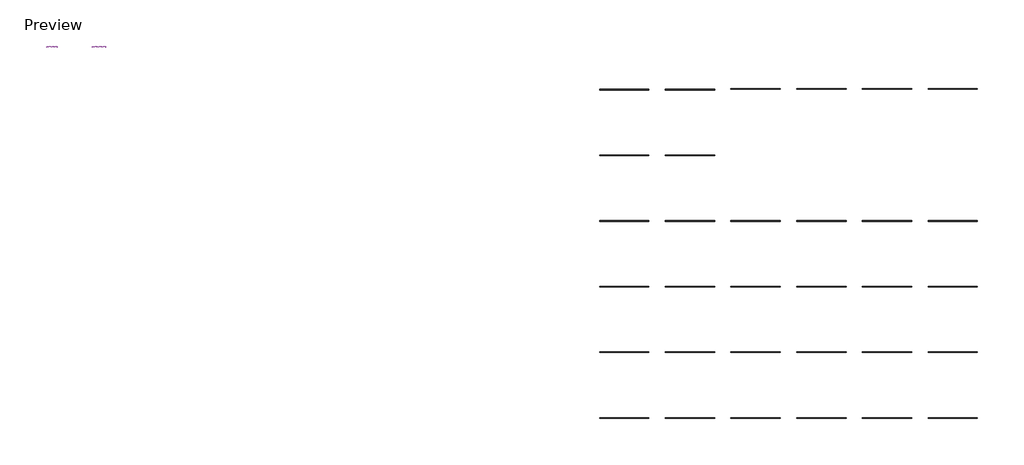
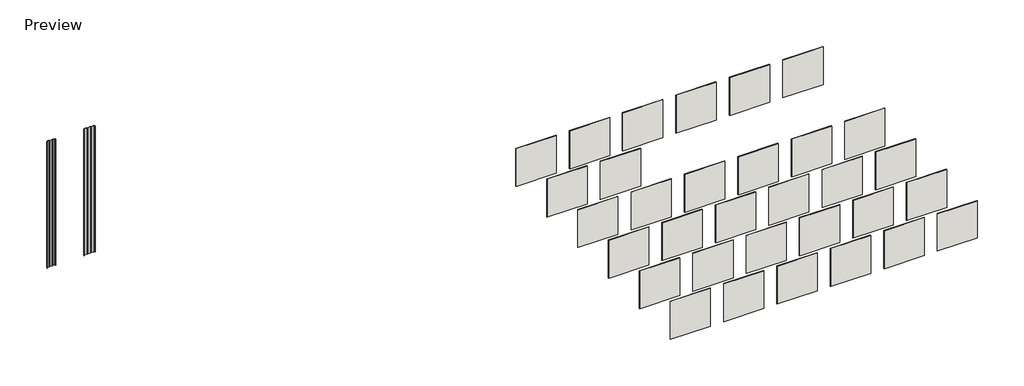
# One storey: 32 walls, 2 proxies.
"""IFC4 building model written with IfcOpenShell, lengths in millimetres."""

from ifc_helpers import new_model, si_unit, frame, origin, origin_with_axes, place, context, project, spatial, polyline, outline, extrude, transform, mapped, element, save
from components import field_lok_flr154_flr154_6b782a5d, field_lok_flr195_flr195_33861746

model = new_model("IFC4")

# Units and contexts
model_context = context("Model", 3, world=origin())
ifc_project = project(units=[si_unit("LENGTHUNIT", "METRE", prefix="MILLI")], contexts=[model_context])

# Site, building, storey
site = spatial("IfcSite", under=ifc_project)
building = spatial("IfcBuilding", under=site)
storey = spatial("IfcBuildingStorey", under=building, Name="Preview", Elevation=0.0)

# Proxies
placement = place(None, origin())
field_lok_flr154_flr154_shape = field_lok_flr154_flr154_6b782a5d(model_context)
element("IfcBuildingElementProxy", 1, Name="Field Lok FLR154 : FLR154", ObjectType="Field Lok FLR154 : FLR154", at=placement, inside=storey, context=model_context, shape_type="MappedRepresentation", body=[
    mapped(field_lok_flr154_flr154_shape, transform((-40733.7183544, 19903.0873646, 5421.6811941), x_axis=(0.0, 0.0, 1.0), y_axis=(-1.0, 0.0, 0.0), z_axis=(0.0, -1.0, 0.0))),
])
field_lok_flr195_flr195_shape = field_lok_flr195_flr195_33861746(model_context)
element("IfcBuildingElementProxy", 2, Name="Field Lok FLR195 : FLR195", ObjectType="Field Lok FLR195 : FLR195", at=placement, inside=storey, context=model_context, shape_type="MappedRepresentation", body=[
    mapped(field_lok_flr195_flr195_shape, transform((-38984.8701747, 19903.0873646, 3813.777516), x_axis=(-1.0, 0.0, 0.0), y_axis=(0.0, 0.0, -1.0), z_axis=(0.0, -1.0, 0.0))),
])

# Walls
element("IfcWall", 3, ObjectType="ATAS_Ascot White", at=placement, inside=storey, context=model_context, shape_type="SweptSolid", body=[
    extrude(outline(polyline([(-18839.3718391, 8535.7201131), (-20668.1718391, 8535.7201131), (-20668.1718391, 8559.5326131), (-18839.3718391, 8559.5326131), (-18839.3718391, 8535.7201131)])), origin_with_axes(), (0.0, 0.0, 1.0), 1828.8),
])
element("IfcWall", 4, ObjectType="ATAS_Classic Bronze", at=placement, inside=storey, context=model_context, shape_type="SweptSolid", body=[
    extrude(outline(polyline([(-16400.9718391, 8535.7201131), (-18229.7718391, 8535.7201131), (-18229.7718391, 8559.5326131), (-16400.9718391, 8559.5326131), (-16400.9718391, 8535.7201131)])), origin_with_axes(), (0.0, 0.0, 1.0), 1828.8),
])
element("IfcWall", 5, ObjectType="ATAS_Teal", at=placement, inside=storey, context=model_context, shape_type="SweptSolid", body=[
    extrude(outline(polyline([(-13962.5718391, 8535.7201131), (-15791.3718391, 8535.7201131), (-15791.3718391, 8559.5326131), (-13962.5718391, 8559.5326131), (-13962.5718391, 8535.7201131)])), origin_with_axes(), (0.0, 0.0, 1.0), 1828.8),
])
element("IfcWall", 6, ObjectType="ATAS_Boysenberry", at=placement, inside=storey, context=model_context, shape_type="SweptSolid", body=[
    extrude(outline(polyline([(-11524.1718391, 8535.7201131), (-13352.9718391, 8535.7201131), (-13352.9718391, 8559.5326131), (-11524.1718391, 8559.5326131), (-11524.1718391, 8535.7201131)])), origin_with_axes(), (0.0, 0.0, 1.0), 1828.8),
])
element("IfcWall", 7, ObjectType="ATAS_Rawhide", at=placement, inside=storey, context=model_context, shape_type="SweptSolid", body=[
    extrude(outline(polyline([(-9085.7718391, 8535.7201131), (-10914.5718391, 8535.7201131), (-10914.5718391, 8559.5326131), (-9085.7718391, 8559.5326131), (-9085.7718391, 8535.7201131)])), origin_with_axes(), (0.0, 0.0, 1.0), 1828.8),
])
element("IfcWall", 8, ObjectType="ATAS_Regal Blue", at=placement, inside=storey, context=model_context, shape_type="SweptSolid", body=[
    extrude(outline(polyline([(-6647.3718391, 8535.7201131), (-8476.1718391, 8535.7201131), (-8476.1718391, 8559.5326131), (-6647.3718391, 8559.5326131), (-6647.3718391, 8535.7201131)])), origin_with_axes(), (0.0, 0.0, 1.0), 1828.8),
])
element("IfcWall", 9, ObjectType="ATAS_Black", at=placement, inside=storey, context=model_context, shape_type="SweptSolid", body=[
    extrude(outline(polyline([(-18839.3718391, 6097.3201131), (-20668.1718391, 6097.3201131), (-20668.1718391, 6121.1326131), (-18839.3718391, 6121.1326131), (-18839.3718391, 6097.3201131)])), origin_with_axes(), (0.0, 0.0, 1.0), 1828.8),
])
element("IfcWall", 10, ObjectType="ATAS_Forest Green", at=placement, inside=storey, context=model_context, shape_type="SweptSolid", body=[
    extrude(outline(polyline([(-16400.9718391, 6097.3201131), (-18229.7718391, 6097.3201131), (-18229.7718391, 6121.1326131), (-16400.9718391, 6121.1326131), (-16400.9718391, 6097.3201131)])), origin_with_axes(), (0.0, 0.0, 1.0), 1828.8),
])
element("IfcWall", 11, ObjectType="ATAS_Chocolate Brown", at=placement, inside=storey, context=model_context, shape_type="SweptSolid", body=[
    extrude(outline(polyline([(-13962.5718391, 6097.3201131), (-15791.3718391, 6097.3201131), (-15791.3718391, 6121.1326131), (-13962.5718391, 6121.1326131), (-13962.5718391, 6097.3201131)])), origin_with_axes(), (0.0, 0.0, 1.0), 1828.8),
])
element("IfcWall", 12, ObjectType="ATAS_Sierra Tan", at=placement, inside=storey, context=model_context, shape_type="SweptSolid", body=[
    extrude(outline(polyline([(-11524.1718391, 6097.3201131), (-13352.9718391, 6097.3201131), (-13352.9718391, 6121.1326131), (-11524.1718391, 6121.1326131), (-11524.1718391, 6097.3201131)])), origin_with_axes(), (0.0, 0.0, 1.0), 1828.8),
])
element("IfcWall", 13, ObjectType="ATAS_Sandstone", at=placement, inside=storey, context=model_context, shape_type="SweptSolid", body=[
    extrude(outline(polyline([(-9085.7718391, 6097.3201131), (-10914.5718391, 6097.3201131), (-10914.5718391, 6121.1326131), (-9085.7718391, 6121.1326131), (-9085.7718391, 6097.3201131)])), origin_with_axes(), (0.0, 0.0, 1.0), 1828.8),
])
element("IfcWall", 14, ObjectType="ATAS_Rocky Grey", at=placement, inside=storey, context=model_context, shape_type="SweptSolid", body=[
    extrude(outline(polyline([(-6647.3718391, 6097.3201131), (-8476.1718391, 6097.3201131), (-8476.1718391, 6121.1326131), (-6647.3718391, 6121.1326131), (-6647.3718391, 6097.3201131)])), origin_with_axes(), (0.0, 0.0, 1.0), 1793.6354952),
])
element("IfcWall", 15, ObjectType="ATAS_Charcoal Grey", at=placement, inside=storey, context=model_context, shape_type="SweptSolid", body=[
    extrude(outline(polyline([(-18839.3718391, 10974.1201131), (-20668.1718391, 10974.1201131), (-20668.1718391, 10997.9326131), (-18839.3718391, 10997.9326131), (-18839.3718391, 10974.1201131)])), origin_with_axes(), (0.0, 0.0, 1.0), 1828.8),
])
element("IfcWall", 16, ObjectType="ATAS_Bone White", at=placement, inside=storey, context=model_context, shape_type="SweptSolid", body=[
    extrude(outline(polyline([(-16400.9718391, 10974.1201131), (-18229.7718391, 10974.1201131), (-18229.7718391, 10997.9326131), (-16400.9718391, 10997.9326131), (-16400.9718391, 10974.1201131)])), origin_with_axes(), (0.0, 0.0, 1.0), 1828.8),
])
element("IfcWall", 17, ObjectType="ATAS_Medium Bronze", at=placement, inside=storey, context=model_context, shape_type="SweptSolid", body=[
    extrude(outline(polyline([(-13962.5718391, 10974.1201131), (-15791.3718391, 10974.1201131), (-15791.3718391, 10997.9326131), (-13962.5718391, 10997.9326131), (-13962.5718391, 10974.1201131)])), origin_with_axes(), (0.0, 0.0, 1.0), 1828.8),
])
element("IfcWall", 18, ObjectType="ATAS_Hemlock Green", at=placement, inside=storey, context=model_context, shape_type="SweptSolid", body=[
    extrude(outline(polyline([(-11524.1718391, 10974.1201131), (-13352.9718391, 10974.1201131), (-13352.9718391, 10997.9326131), (-11524.1718391, 10997.9326131), (-11524.1718391, 10974.1201131)])), origin_with_axes(), (0.0, 0.0, 1.0), 1828.8),
])
element("IfcWall", 19, ObjectType="ATAS_Redwood", at=placement, inside=storey, context=model_context, shape_type="SweptSolid", body=[
    extrude(outline(polyline([(-9085.7718391, 10974.1201131), (-10914.5718391, 10974.1201131), (-10914.5718391, 10997.9326131), (-9085.7718391, 10997.9326131), (-9085.7718391, 10974.1201131)])), origin_with_axes(), (0.0, 0.0, 1.0), 1828.8),
])
element("IfcWall", 20, ObjectType="ATAS_Concord Cream", at=placement, inside=storey, context=model_context, shape_type="SweptSolid", body=[
    extrude(outline(polyline([(-6647.3718391, 10974.1201131), (-8476.1718391, 10974.1201131), (-8476.1718391, 10997.9326131), (-6647.3718391, 10997.9326131), (-6647.3718391, 10974.1201131)])), origin_with_axes(), (0.0, 0.0, 1.0), 1828.8),
])
element("IfcWall", 21, ObjectType="ATAS_Slate Blue", at=placement, inside=storey, context=model_context, shape_type="SweptSolid", body=[
    extrude(outline(polyline([(-18839.3718391, 13412.5201131), (-20668.1718391, 13412.5201131), (-20668.1718391, 13436.3326131), (-18839.3718391, 13436.3326131), (-18839.3718391, 13412.5201131)])), origin_with_axes(), (0.0, 0.0, 1.0), 1828.8),
])
element("IfcWall", 22, ObjectType="ATAS_Slate Grey", at=placement, inside=storey, context=model_context, shape_type="SweptSolid", body=[
    extrude(outline(polyline([(-16400.9718391, 13412.5201131), (-18229.7718391, 13412.5201131), (-18229.7718391, 13436.3326131), (-16400.9718391, 13436.3326131), (-16400.9718391, 13412.5201131)])), origin_with_axes(), (0.0, 0.0, 1.0), 1828.8),
])
element("IfcWall", 23, ObjectType="ATAS_Hatford Green", at=placement, inside=storey, context=model_context, shape_type="SweptSolid", body=[
    extrude(outline(polyline([(-13962.5718391, 13412.5201131), (-15791.3718391, 13412.5201131), (-15791.3718391, 13436.3326131), (-13962.5718391, 13436.3326131), (-13962.5718391, 13412.5201131)])), origin_with_axes(), (0.0, 0.0, 1.0), 1828.8),
])
element("IfcWall", 24, ObjectType="ATAS_Patina Green", at=placement, inside=storey, context=model_context, shape_type="SweptSolid", body=[
    extrude(outline(polyline([(-11524.1718391, 13412.5201131), (-13352.9718391, 13412.5201131), (-13352.9718391, 13436.3326131), (-11524.1718391, 13436.3326131), (-11524.1718391, 13412.5201131)])), frame((0.0, 0.0, -5.2424975), z_axis=(0.0, 0.0, 1.0), x_axis=(1.0, 0.0, 0.0)), (0.0, 0.0, 1.0), 1834.0424975),
])
element("IfcWall", 25, ObjectType="ATAS_Mission Red", at=placement, inside=storey, context=model_context, shape_type="SweptSolid", body=[
    extrude(outline(polyline([(-9085.7718391, 13412.5201131), (-10914.5718391, 13412.5201131), (-10914.5718391, 13436.3326131), (-9085.7718391, 13436.3326131), (-9085.7718391, 13412.5201131)])), origin_with_axes(), (0.0, 0.0, 1.0), 1828.8),
])
element("IfcWall", 26, ObjectType="ATAS_Almond", at=placement, inside=storey, context=model_context, shape_type="SweptSolid", body=[
    extrude(outline(polyline([(-6647.3718391, 13412.5201131), (-8476.1718391, 13412.5201131), (-8476.1718391, 13436.3326131), (-6647.3718391, 13436.3326131), (-6647.3718391, 13412.5201131)])), origin_with_axes(), (0.0, 0.0, 1.0), 1828.8),
])
element("IfcWall", 27, ObjectType="ATAS_Siam Blue", at=placement, inside=storey, context=model_context, shape_type="SweptSolid", body=[
    extrude(outline(polyline([(-18839.3718391, 15850.9201131), (-20668.1718391, 15850.9201131), (-20668.1718391, 15874.7326131), (-18839.3718391, 15874.7326131), (-18839.3718391, 15850.9201131)])), origin_with_axes(), (0.0, 0.0, 1.0), 1828.8),
])
element("IfcWall", 28, ObjectType="ATAS_Dove Grey", at=placement, inside=storey, context=model_context, shape_type="SweptSolid", body=[
    extrude(outline(polyline([(-16400.9718391, 15850.9201131), (-18229.7718391, 15850.9201131), (-18229.7718391, 15874.7326131), (-16400.9718391, 15874.7326131), (-16400.9718391, 15850.9201131)])), origin_with_axes(), (0.0, 0.0, 1.0), 1828.8),
])
element("IfcWall", 29, ObjectType="ATAS_Antique Patina", at=placement, inside=storey, context=model_context, shape_type="SweptSolid", body=[
    extrude(outline(polyline([(-13962.5718391, 18313.1326131), (-15791.3718391, 18313.1326131), (-15791.3718391, 18336.9451131), (-13962.5718391, 18336.9451131), (-13962.5718391, 18313.1326131)])), origin_with_axes(), (0.0, 0.0, 1.0), 1828.8),
])
element("IfcWall", 30, ObjectType="ATAS_Champagne", at=placement, inside=storey, context=model_context, shape_type="SweptSolid", body=[
    extrude(outline(polyline([(-11524.1718391, 18313.1326131), (-13352.9718391, 18313.1326131), (-13352.9718391, 18336.9451131), (-11524.1718391, 18336.9451131), (-11524.1718391, 18313.1326131)])), origin_with_axes(), (0.0, 0.0, 1.0), 1828.8),
])
element("IfcWall", 31, ObjectType="ATAS_Coppertone", at=placement, inside=storey, context=model_context, shape_type="SweptSolid", body=[
    extrude(outline(polyline([(-9085.7718391, 18313.1326131), (-10914.5718391, 18313.1326131), (-10914.5718391, 18336.9451131), (-9085.7718391, 18336.9451131), (-9085.7718391, 18313.1326131)])), origin_with_axes(), (0.0, 0.0, 1.0), 1828.8),
])
element("IfcWall", 32, ObjectType="ATAS_Silversmith", at=placement, inside=storey, context=model_context, shape_type="SweptSolid", body=[
    extrude(outline(polyline([(-18839.3718391, 18289.3201131), (-20668.1718391, 18289.3201131), (-20668.1718391, 18313.1326131), (-18839.3718391, 18313.1326131), (-18839.3718391, 18289.3201131)])), origin_with_axes(), (0.0, 0.0, 1.0), 1828.8),
])
element("IfcWall", 33, ObjectType="ATAS_Brite Red", at=placement, inside=storey, context=model_context, shape_type="SweptSolid", body=[
    extrude(outline(polyline([(-16400.9718391, 18289.3201131), (-18229.7718391, 18289.3201131), (-18229.7718391, 18313.1326131), (-16400.9718391, 18313.1326131), (-16400.9718391, 18289.3201131)])), origin_with_axes(), (0.0, 0.0, 1.0), 1828.8),
])
element("IfcWall", 34, ObjectType="ATAS_Titanium", at=placement, inside=storey, context=model_context, shape_type="SweptSolid", body=[
    extrude(outline(polyline([(-6647.3718391, 18313.1326131), (-8476.1718391, 18313.1326131), (-8476.1718391, 18336.9451131), (-6647.3718391, 18336.9451131), (-6647.3718391, 18313.1326131)])), origin_with_axes(), (0.0, 0.0, 1.0), 1828.8),
])

save(model, "model.ifc")
